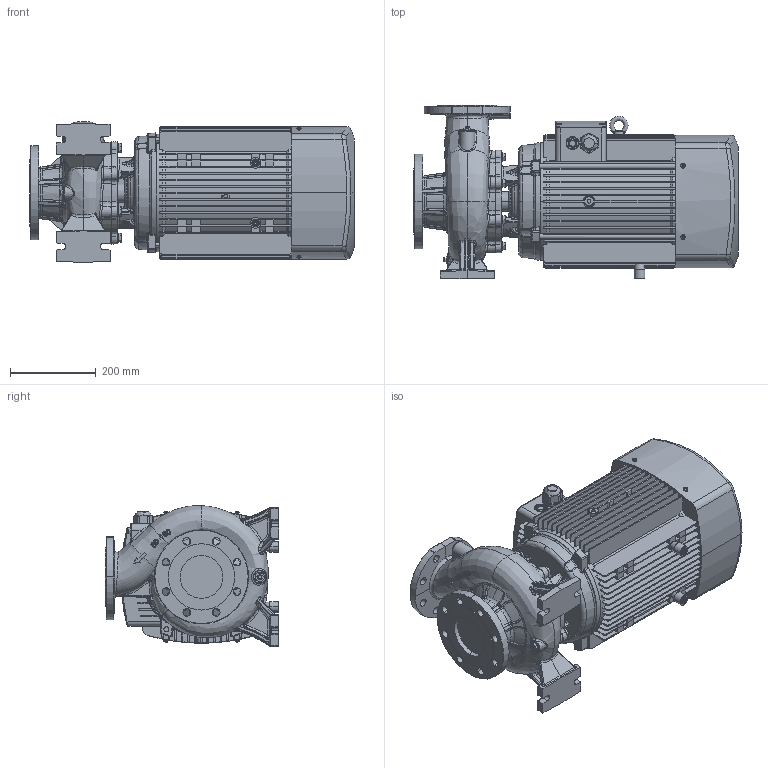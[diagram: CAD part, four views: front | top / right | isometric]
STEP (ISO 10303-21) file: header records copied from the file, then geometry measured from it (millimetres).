
FILE_DESCRIPTION (( 'STEP AP203' ), '1' );
FILE_NAME ('TST80-160-18.5 22 安装尺寸图.stp.STEP', '2026-04-28T09:30:51', ( '微软用户' ), ( '微软中国' ), 'SwSTEP 2.0', 'SolidWorks 2020', '' );
FILE_SCHEMA (( 'CONFIG_CONTROL_DESIGN' ));
Products named in the file (1): TST80-160-18.5 22 假蚾喜渡芞.stp
Bounding box: 758.5 x 405.6 x 328.88 mm (x, y, z)
Volume: 46943194 mm3; surface area: 2148484.2 mm2
Topology: 1 solids, 1 shells, 5461 faces, 13701 edges, 8600 vertices
Faces by surface type: plane 2767, bspline 1162, cylinder 747, cone 402, torus 303, sphere 80
Entity records: 215903 total; most frequent: CARTESIAN_POINT 93411, ORIENTED_EDGE 27332, DIRECTION 22680, EDGE_CURVE 13666, VERTEX_POINT 8600, AXIS2_PLACEMENT_3D 7791, LINE 7098, VECTOR 7098
